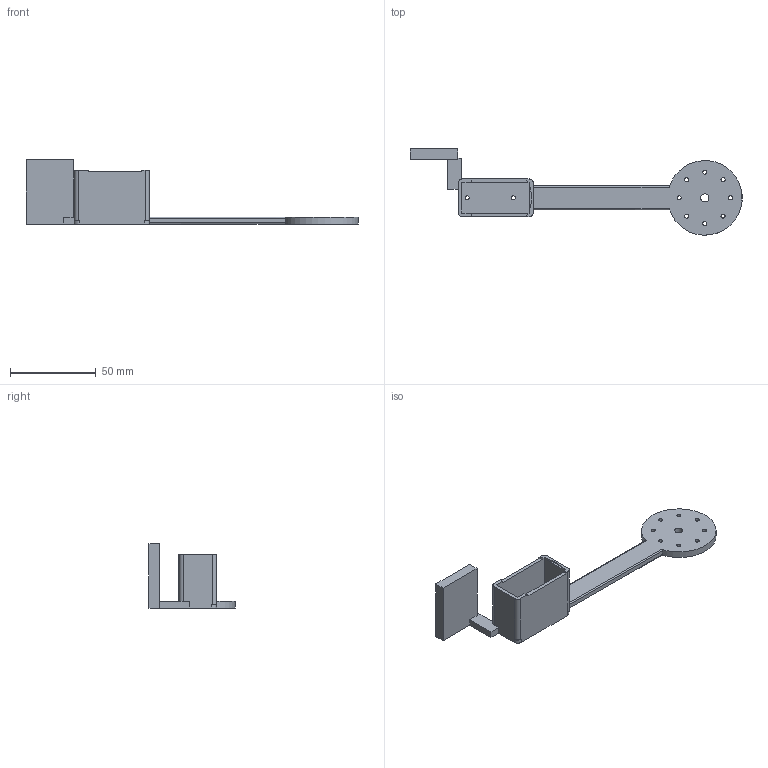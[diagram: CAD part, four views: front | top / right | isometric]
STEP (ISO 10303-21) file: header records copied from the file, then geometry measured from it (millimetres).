
FILE_DESCRIPTION(('Open CASCADE Model'),'2;1');
FILE_NAME('Open CASCADE Shape Model','2026-11-06T05:36:56',('Author'),( 'Open CASCADE'),'Open CASCADE STEP processor 8.0','Open CASCADE 8.0' ,'Unknown');
FILE_SCHEMA(('AUTOMOTIVE_DESIGN { 1 0 10303 214 1 1 1 1 }'));
Length unit declared in the file: millimetre
Products named in the file (1): Open CASCADE STEP translator 8.0 8
Bounding box: 193.67 x 50.2 x 37.5 mm (x, y, z)
Volume: 26960.7 mm3; surface area: 18490.6 mm2
Topology: 1 solids, 1 shells, 67 faces, 192 edges, 128 vertices
Faces by surface type: plane 37, cylinder 30
Full cylindrical faces by diameter (mm): 2.4 x10, 4.8 x1, 36.1 x1
Entity records: 4809 total; most frequent: CARTESIAN_POINT 1041, DIRECTION 669, ORIENTED_EDGE 384, PCURVE 384, DEFINITIONAL_REPRESENTATION 384, LINE 379, VECTOR 379, EDGE_CURVE 192
